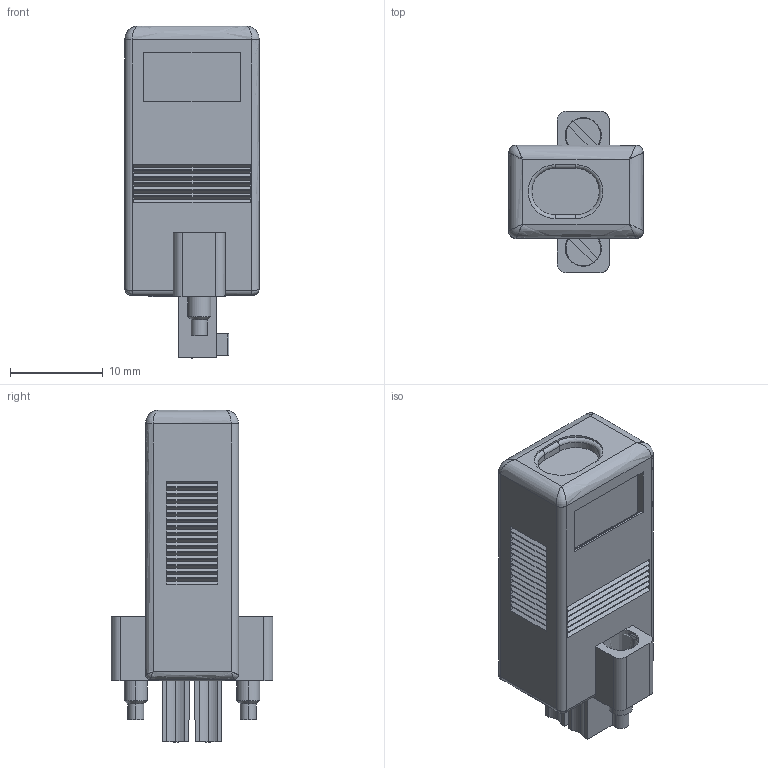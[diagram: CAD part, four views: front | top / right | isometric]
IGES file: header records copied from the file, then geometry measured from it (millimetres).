
Start section:  PTC IGES file: conn_crio_2_pos_cmbcn_tb.igs
Global section: file name: conn_crio_2_pos_cmbcn_tb.igs; native system: Pro/ENGINEER by Parametric Technology Corporation; preprocessor: 2006080; author: chrisj; organization: Unknown; date: 070124.154926; units: inch
Bounding box: 14.5 x 17.4 x 35.75 mm (x, y, z)
Surface area: 3183.4 mm2 (no closed solid volume)
Topology: 0 solids, 0 shells, 586 faces, 2954 edges, 2946 vertices
Faces by surface type: bspline 425, revolution 161
